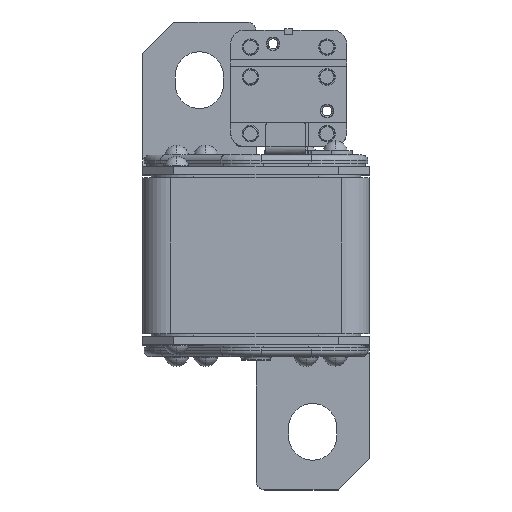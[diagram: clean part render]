
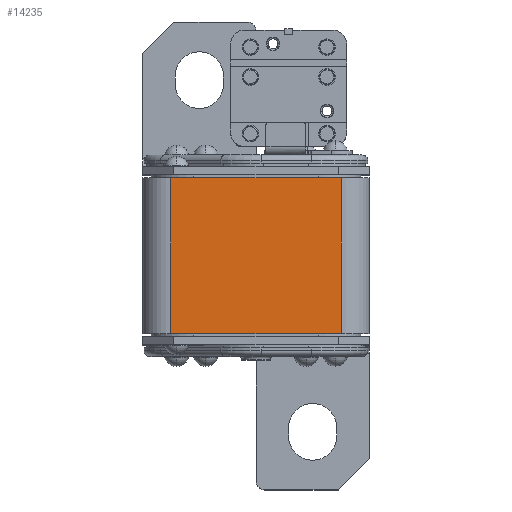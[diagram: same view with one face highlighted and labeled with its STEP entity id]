
A CAD part, top view. The second image highlights one B-rep face of the part: STEP entity #14235.
In plain terms, the highlighted planar face has unit normal (0, 0, 1).
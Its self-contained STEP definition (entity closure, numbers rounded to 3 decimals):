
#498 = AXIS2_PLACEMENT_3D ( 'NONE', #2770, #1102, #4941 ) ;
#1102 = DIRECTION ( 'NONE',  ( 0., 0., -1. ) ) ;
#1799 = DIRECTION ( 'NONE',  ( 0., -1., 0. ) ) ;
#2770 = CARTESIAN_POINT ( 'NONE',  ( -30., 27.5, 40. ) ) ;
#2917 = DIRECTION ( 'NONE',  ( 0., -1., 0. ) ) ;
#4148 = ORIENTED_EDGE ( 'NONE', *, *, #24185, .F. ) ;
#4941 = DIRECTION ( 'NONE',  ( 0., -1., 0. ) ) ;
#6191 = CARTESIAN_POINT ( 'NONE',  ( -30., 27.5, 40. ) ) ;
#6539 = VECTOR ( 'NONE', #1799, 1000. ) ;
#7265 = VERTEX_POINT ( 'NONE', #19514 ) ;
#8158 = CARTESIAN_POINT ( 'NONE',  ( 30., -27.5, 40. ) ) ;
#8362 = LINE ( 'NONE', #12857, #23680 ) ;
#8933 = CARTESIAN_POINT ( 'NONE',  ( -30., 27.5, 40. ) ) ;
#11302 = EDGE_LOOP ( 'NONE', ( #22863, #13099, #4148, #12676 ) ) ;
#11419 = CARTESIAN_POINT ( 'NONE',  ( -30., -27.5, 40. ) ) ;
#11470 = LINE ( 'NONE', #14910, #23942 ) ;
#11870 = LINE ( 'NONE', #15673, #6539 ) ;
#12676 = ORIENTED_EDGE ( 'NONE', *, *, #18765, .T. ) ;
#12857 = CARTESIAN_POINT ( 'NONE',  ( -30., 27.5, 40. ) ) ;
#13099 = ORIENTED_EDGE ( 'NONE', *, *, #13850, .F. ) ;
#13850 = EDGE_CURVE ( 'NONE', #7265, #24009, #11870, .T. ) ;
#14235 = ADVANCED_FACE ( 'NONE', ( #19675 ), #22748, .F. ) ;
#14910 = CARTESIAN_POINT ( 'NONE',  ( -30., -27.5, 40. ) ) ;
#15673 = CARTESIAN_POINT ( 'NONE',  ( 30., 27.5, 40. ) ) ;
#15734 = VERTEX_POINT ( 'NONE', #11419 ) ;
#18765 = EDGE_CURVE ( 'NONE', #24684, #15734, #8362, .T. ) ;
#18998 = DIRECTION ( 'NONE',  ( 1., 0., 0. ) ) ;
#19050 = DIRECTION ( 'NONE',  ( 1., 0., 0. ) ) ;
#19514 = CARTESIAN_POINT ( 'NONE',  ( 30., 27.5, 40. ) ) ;
#19675 = FACE_OUTER_BOUND ( 'NONE', #11302, .T. ) ;
#20003 = EDGE_CURVE ( 'NONE', #15734, #24009, #11470, .T. ) ;
#22748 = PLANE ( 'NONE',  #498 ) ;
#22863 = ORIENTED_EDGE ( 'NONE', *, *, #20003, .T. ) ;
#23680 = VECTOR ( 'NONE', #2917, 1000. ) ;
#23942 = VECTOR ( 'NONE', #19050, 1000. ) ;
#24009 = VERTEX_POINT ( 'NONE', #8158 ) ;
#24185 = EDGE_CURVE ( 'NONE', #24684, #7265, #25685, .T. ) ;
#24684 = VERTEX_POINT ( 'NONE', #6191 ) ;
#25342 = VECTOR ( 'NONE', #18998, 1000. ) ;
#25685 = LINE ( 'NONE', #8933, #25342 ) ;
